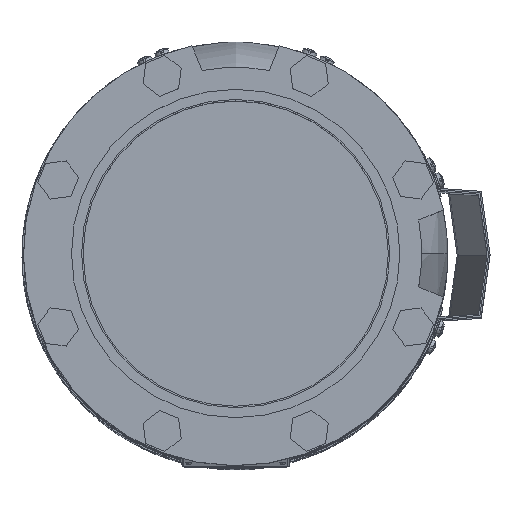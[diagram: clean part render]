
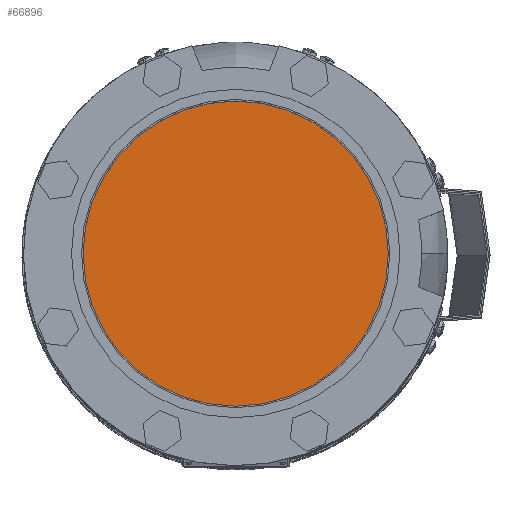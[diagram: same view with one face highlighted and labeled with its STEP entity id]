
A CAD part, top view. The second image highlights one B-rep face of the part: STEP entity #66896.
In plain terms, the highlighted planar face has unit normal (0, 0, 1) as drawn and (0, 1, 0) by its records, which use the part's own axes.
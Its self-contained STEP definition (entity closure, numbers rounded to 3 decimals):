
#588=CIRCLE('',#70502,102.5);
#589=CIRCLE('',#70503,102.5);
#16219=ORIENTED_EDGE('',*,*,#36483,.F.);
#16220=ORIENTED_EDGE('',*,*,#36484,.T.);
#36483=EDGE_CURVE('',#46615,#46616,#588,.T.);
#36484=EDGE_CURVE('',#46615,#46616,#589,.T.);
#46615=VERTEX_POINT('',#96481);
#46616=VERTEX_POINT('',#96482);
#54143=EDGE_LOOP('',(#16219,#16220));
#59006=FACE_BOUND('',#54143,.T.);
#63868=PLANE('',#70501);
#66896=ADVANCED_FACE('',(#59006),#63868,.T.);
#70501=AXIS2_PLACEMENT_3D('',#96479,#77053,#77054);
#70502=AXIS2_PLACEMENT_3D('',#96480,#77055,#77056);
#70503=AXIS2_PLACEMENT_3D('',#96483,#77057,#77058);
#77053=DIRECTION('',(0.,1.,0.));
#77054=DIRECTION('',(-1.,0.,0.));
#77055=DIRECTION('',(0.,-1.,0.));
#77056=DIRECTION('',(-1.,0.,0.));
#77057=DIRECTION('',(0.,1.,0.));
#77058=DIRECTION('',(-1.,0.,0.));
#96479=CARTESIAN_POINT('',(-109.56,216.5,0.));
#96480=CARTESIAN_POINT('',(0.,216.5,0.));
#96481=CARTESIAN_POINT('',(-102.5,216.5,0.));
#96482=CARTESIAN_POINT('',(102.5,216.5,0.));
#96483=CARTESIAN_POINT('',(0.,216.5,0.));
